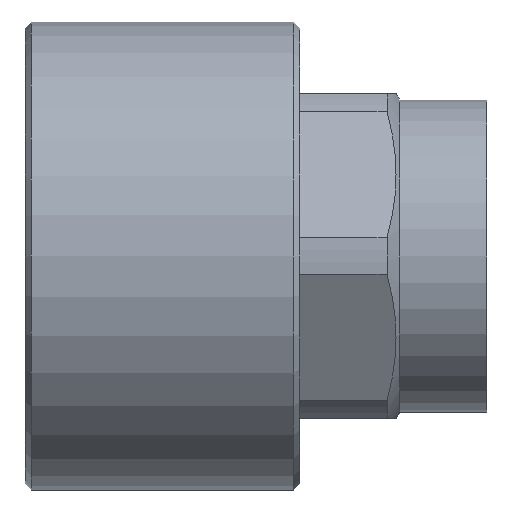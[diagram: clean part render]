
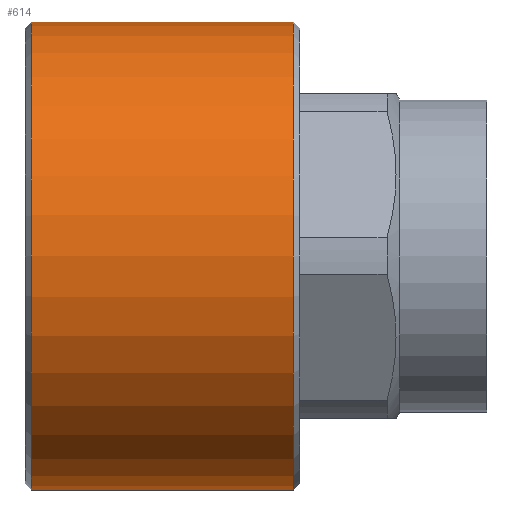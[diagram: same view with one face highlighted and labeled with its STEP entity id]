
A CAD part, front view. The second image highlights one B-rep face of the part: STEP entity #614.
In plain terms, the highlighted cylindrical face has radius 18.75 mm (diameter 37.5 mm), a full revolution.
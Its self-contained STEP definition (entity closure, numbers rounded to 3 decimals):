
#583=CARTESIAN_POINT('',(0.5,18.75,0.));
#584=VERTEX_POINT('',#583);
#585=CARTESIAN_POINT('',(0.5,0.,0.0));
#586=DIRECTION('',(-1.0,0.0,0.0));
#587=DIRECTION('',(0.0,-1.0,0.0));
#588=AXIS2_PLACEMENT_3D('',#585,#586,#587);
#589=CIRCLE('',#588,18.75);
#590=EDGE_CURVE('',#584,#584,#589,.T.);
#595=CARTESIAN_POINT('',(11.,0.,0.0));
#596=DIRECTION('',(1.0,0.,0.0));
#597=DIRECTION('',(0.0,1.0,0.0));
#598=AXIS2_PLACEMENT_3D('',#595,#596,#597);
#599=CYLINDRICAL_SURFACE('',#598,18.75);
#600=CARTESIAN_POINT('',(21.5,18.75,0.));
#601=VERTEX_POINT('',#600);
#602=CARTESIAN_POINT('',(21.5,0.,0.0));
#603=DIRECTION('',(1.0,0.0,0.0));
#604=DIRECTION('',(0.0,-1.0,0.0));
#605=AXIS2_PLACEMENT_3D('',#602,#603,#604);
#606=CIRCLE('',#605,18.75);
#607=EDGE_CURVE('',#601,#601,#606,.T.);
#608=ORIENTED_EDGE('',*,*,#607,.F.);
#609=EDGE_LOOP('',(#608));
#610=FACE_OUTER_BOUND('',#609,.T.);
#611=ORIENTED_EDGE('',*,*,#590,.F.);
#612=EDGE_LOOP('',(#611));
#613=FACE_BOUND('',#612,.T.);
#614=ADVANCED_FACE('',(#610,#613),#599,.T.);
